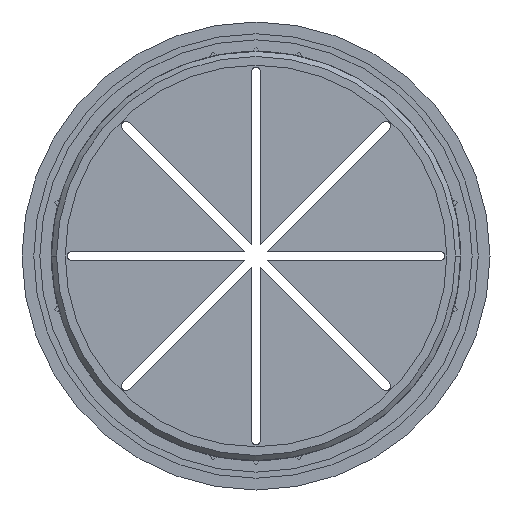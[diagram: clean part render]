
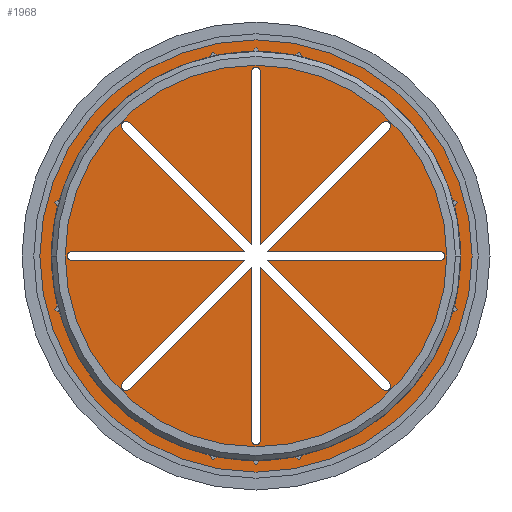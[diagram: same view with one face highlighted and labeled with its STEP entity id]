
A CAD part, front view. The second image highlights one B-rep face of the part: STEP entity #1968.
In plain terms, the highlighted planar face has unit normal (0, -1, 0) as drawn and (0, 1, 0) by its records, which use the part's own axes.
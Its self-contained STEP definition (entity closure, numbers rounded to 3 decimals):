
#1471=DIRECTION('',(1.,0.,0.));
#1472=VECTOR('',#1471,33.827);
#1473=CARTESIAN_POINT('',(2.173,3.5,0.9));
#1474=LINE('',#1473,#1472);
#1475=DIRECTION('',(-1.,0.,0.));
#1476=VECTOR('',#1475,33.827);
#1477=CARTESIAN_POINT('',(36.,3.5,-0.9));
#1478=LINE('',#1477,#1476);
#1479=DIRECTION('',(0.707,0.,-0.707));
#1480=VECTOR('',#1479,33.827);
#1481=CARTESIAN_POINT('',(2.173,3.5,-0.9));
#1482=LINE('',#1481,#1480);
#1483=DIRECTION('',(-0.707,0.,0.707));
#1484=VECTOR('',#1483,33.827);
#1485=CARTESIAN_POINT('',(24.819,3.5,-26.092));
#1486=LINE('',#1485,#1484);
#1487=DIRECTION('',(0.,0.,-1.));
#1488=VECTOR('',#1487,33.827);
#1489=CARTESIAN_POINT('',(0.9,3.5,-2.173));
#1490=LINE('',#1489,#1488);
#1491=DIRECTION('',(0.,0.,1.));
#1492=VECTOR('',#1491,33.827);
#1493=CARTESIAN_POINT('',(-0.9,3.5,-36.));
#1494=LINE('',#1493,#1492);
#1495=DIRECTION('',(-0.707,0.,-0.707));
#1496=VECTOR('',#1495,33.827);
#1497=CARTESIAN_POINT('',(-0.9,3.5,-2.173));
#1498=LINE('',#1497,#1496);
#1499=DIRECTION('',(0.707,0.,0.707));
#1500=VECTOR('',#1499,33.827);
#1501=CARTESIAN_POINT('',(-26.092,3.5,-24.819));
#1502=LINE('',#1501,#1500);
#1503=DIRECTION('',(-1.,0.,0.));
#1504=VECTOR('',#1503,33.827);
#1505=CARTESIAN_POINT('',(-2.173,3.5,-0.9));
#1506=LINE('',#1505,#1504);
#1507=DIRECTION('',(1.,0.,0.));
#1508=VECTOR('',#1507,33.827);
#1509=CARTESIAN_POINT('',(-36.,3.5,0.9));
#1510=LINE('',#1509,#1508);
#1511=DIRECTION('',(-0.707,0.,0.707));
#1512=VECTOR('',#1511,33.827);
#1513=CARTESIAN_POINT('',(-2.173,3.5,0.9));
#1514=LINE('',#1513,#1512);
#1515=DIRECTION('',(0.707,0.,-0.707));
#1516=VECTOR('',#1515,33.827);
#1517=CARTESIAN_POINT('',(-24.819,3.5,26.092));
#1518=LINE('',#1517,#1516);
#1519=DIRECTION('',(0.,0.,1.));
#1520=VECTOR('',#1519,33.827);
#1521=CARTESIAN_POINT('',(-0.9,3.5,2.173));
#1522=LINE('',#1521,#1520);
#1523=DIRECTION('',(0.,0.,-1.));
#1524=VECTOR('',#1523,33.827);
#1525=CARTESIAN_POINT('',(0.9,3.5,36.));
#1526=LINE('',#1525,#1524);
#1527=DIRECTION('',(0.707,0.,0.707));
#1528=VECTOR('',#1527,33.827);
#1529=CARTESIAN_POINT('',(0.9,3.5,2.173));
#1530=LINE('',#1529,#1528);
#1531=DIRECTION('',(-0.707,0.,-0.707));
#1532=VECTOR('',#1531,33.827);
#1533=CARTESIAN_POINT('',(26.092,3.5,24.819));
#1534=LINE('',#1533,#1532);
#1535=CARTESIAN_POINT('',(0.,3.5,0.));
#1536=DIRECTION('',(0.,1.,0.));
#1537=DIRECTION('',(-1.,0.,0.));
#1538=AXIS2_PLACEMENT_3D('',#1535,#1536,#1537);
#1540=CARTESIAN_POINT('',(0.,3.5,0.));
#1541=DIRECTION('',(0.,1.,0.));
#1542=DIRECTION('',(1.,0.,0.));
#1543=AXIS2_PLACEMENT_3D('',#1540,#1541,#1542);
#1558=CARTESIAN_POINT('',(36.,3.5,0.));
#1559=DIRECTION('',(0.,-1.,0.));
#1560=DIRECTION('',(0.,0.,-1.));
#1561=AXIS2_PLACEMENT_3D('',#1558,#1559,#1560);
#1654=CARTESIAN_POINT('',(25.456,3.5,-25.456));
#1655=DIRECTION('',(0.,-1.,0.));
#1656=DIRECTION('',(-0.707,0.,-0.707));
#1657=AXIS2_PLACEMENT_3D('',#1654,#1655,#1656);
#1671=CARTESIAN_POINT('',(0.,3.5,-36.));
#1672=DIRECTION('',(0.,-1.,0.));
#1673=DIRECTION('',(-1.,0.,0.));
#1674=AXIS2_PLACEMENT_3D('',#1671,#1672,#1673);
#1698=CARTESIAN_POINT('',(-25.456,3.5,-25.456));
#1699=DIRECTION('',(0.,-1.,0.));
#1700=DIRECTION('',(-0.707,0.,0.707));
#1701=AXIS2_PLACEMENT_3D('',#1698,#1699,#1700);
#1715=CARTESIAN_POINT('',(-36.,3.5,0.));
#1716=DIRECTION('',(0.,-1.,0.));
#1717=DIRECTION('',(0.,0.,1.));
#1718=AXIS2_PLACEMENT_3D('',#1715,#1716,#1717);
#1742=CARTESIAN_POINT('',(-25.456,3.5,25.456));
#1743=DIRECTION('',(0.,-1.,0.));
#1744=DIRECTION('',(0.707,0.,0.707));
#1745=AXIS2_PLACEMENT_3D('',#1742,#1743,#1744);
#1759=CARTESIAN_POINT('',(0.,3.5,36.));
#1760=DIRECTION('',(0.,-1.,0.));
#1761=DIRECTION('',(1.,0.,0.));
#1762=AXIS2_PLACEMENT_3D('',#1759,#1760,#1761);
#1781=CARTESIAN_POINT('',(25.456,3.5,25.456));
#1782=DIRECTION('',(0.,-1.,0.));
#1783=DIRECTION('',(0.707,0.,-0.707));
#1784=AXIS2_PLACEMENT_3D('',#1781,#1782,#1783);
#1804=CARTESIAN_POINT('',(-0.9,3.5,-2.173));
#1806=VERTEX_POINT('',#1804);
#1808=CARTESIAN_POINT('',(-2.173,3.5,-0.9));
#1810=VERTEX_POINT('',#1808);
#1812=CARTESIAN_POINT('',(-2.173,3.5,0.9));
#1814=VERTEX_POINT('',#1812);
#1816=CARTESIAN_POINT('',(-0.9,3.5,2.173));
#1818=VERTEX_POINT('',#1816);
#1820=CARTESIAN_POINT('',(0.9,3.5,2.173));
#1822=VERTEX_POINT('',#1820);
#1824=CARTESIAN_POINT('',(2.173,3.5,0.9));
#1826=VERTEX_POINT('',#1824);
#1828=CARTESIAN_POINT('',(2.173,3.5,-0.9));
#1830=VERTEX_POINT('',#1828);
#1832=CARTESIAN_POINT('',(0.9,3.5,-2.173));
#1834=VERTEX_POINT('',#1832);
#1836=CARTESIAN_POINT('',(26.092,3.5,-24.819));
#1838=VERTEX_POINT('',#1836);
#1840=CARTESIAN_POINT('',(24.819,3.5,-26.092));
#1842=VERTEX_POINT('',#1840);
#1844=CARTESIAN_POINT('',(36.,3.5,0.9));
#1846=VERTEX_POINT('',#1844);
#1848=CARTESIAN_POINT('',(36.,3.5,-0.9));
#1850=VERTEX_POINT('',#1848);
#1851=CARTESIAN_POINT('',(-0.9,3.5,-36.));
#1853=VERTEX_POINT('',#1851);
#1855=CARTESIAN_POINT('',(0.9,3.5,-36.));
#1857=VERTEX_POINT('',#1855);
#1860=CARTESIAN_POINT('',(-24.819,3.5,-26.092));
#1862=VERTEX_POINT('',#1860);
#1864=CARTESIAN_POINT('',(-26.092,3.5,-24.819));
#1866=VERTEX_POINT('',#1864);
#1867=CARTESIAN_POINT('',(-36.,3.5,0.9));
#1869=VERTEX_POINT('',#1867);
#1871=CARTESIAN_POINT('',(-36.,3.5,-0.9));
#1873=VERTEX_POINT('',#1871);
#1876=CARTESIAN_POINT('',(-26.092,3.5,24.819));
#1878=VERTEX_POINT('',#1876);
#1880=CARTESIAN_POINT('',(-24.819,3.5,26.092));
#1882=VERTEX_POINT('',#1880);
#1883=CARTESIAN_POINT('',(0.9,3.5,36.));
#1885=VERTEX_POINT('',#1883);
#1887=CARTESIAN_POINT('',(-0.9,3.5,36.));
#1889=VERTEX_POINT('',#1887);
#1891=CARTESIAN_POINT('',(26.092,3.5,24.819));
#1893=VERTEX_POINT('',#1891);
#1895=CARTESIAN_POINT('',(24.819,3.5,26.092));
#1897=VERTEX_POINT('',#1895);
#1899=CARTESIAN_POINT('',(-42.25,3.5,0.));
#1900=CARTESIAN_POINT('',(42.25,3.5,0.));
#1901=VERTEX_POINT('',#1899);
#1902=VERTEX_POINT('',#1900);
#1907=CARTESIAN_POINT('',(0.,3.5,0.));
#1908=DIRECTION('',(0.,1.,0.));
#1909=DIRECTION('',(1.,0.,0.));
#1910=AXIS2_PLACEMENT_3D('',#1907,#1908,#1909);
#1911=PLANE('',#1910);
#1913=ORIENTED_EDGE('',*,*,#1912,.F.);
#1915=ORIENTED_EDGE('',*,*,#1914,.F.);
#1916=EDGE_LOOP('',(#1913,#1915));
#1917=FACE_OUTER_BOUND('',#1916,.F.);
#1919=ORIENTED_EDGE('',*,*,#1918,.T.);
#1921=ORIENTED_EDGE('',*,*,#1920,.F.);
#1923=ORIENTED_EDGE('',*,*,#1922,.T.);
#1925=ORIENTED_EDGE('',*,*,#1924,.T.);
#1927=ORIENTED_EDGE('',*,*,#1926,.F.);
#1929=ORIENTED_EDGE('',*,*,#1928,.T.);
#1931=ORIENTED_EDGE('',*,*,#1930,.T.);
#1933=ORIENTED_EDGE('',*,*,#1932,.F.);
#1935=ORIENTED_EDGE('',*,*,#1934,.T.);
#1937=ORIENTED_EDGE('',*,*,#1936,.T.);
#1939=ORIENTED_EDGE('',*,*,#1938,.F.);
#1941=ORIENTED_EDGE('',*,*,#1940,.T.);
#1943=ORIENTED_EDGE('',*,*,#1942,.T.);
#1945=ORIENTED_EDGE('',*,*,#1944,.F.);
#1947=ORIENTED_EDGE('',*,*,#1946,.T.);
#1949=ORIENTED_EDGE('',*,*,#1948,.T.);
#1951=ORIENTED_EDGE('',*,*,#1950,.F.);
#1953=ORIENTED_EDGE('',*,*,#1952,.T.);
#1955=ORIENTED_EDGE('',*,*,#1954,.T.);
#1957=ORIENTED_EDGE('',*,*,#1956,.F.);
#1959=ORIENTED_EDGE('',*,*,#1958,.T.);
#1961=ORIENTED_EDGE('',*,*,#1960,.T.);
#1963=ORIENTED_EDGE('',*,*,#1962,.F.);
#1965=ORIENTED_EDGE('',*,*,#1964,.T.);
#1966=EDGE_LOOP('',(#1919,#1921,#1923,#1925,#1927,#1929,#1931,#1933,#1935,#1937,
#1939,#1941,#1943,#1945,#1947,#1949,#1951,#1953,#1955,#1957,#1959,#1961,#1963,
#1965));
#1967=FACE_BOUND('',#1966,.F.);
#1968=ADVANCED_FACE('',(#1917,#1967),#1911,.T.);
#1539=CIRCLE('',#1538,42.25);
#1544=CIRCLE('',#1543,42.25);
#1562=CIRCLE('',#1561,0.9);
#1658=CIRCLE('',#1657,0.9);
#1675=CIRCLE('',#1674,0.9);
#1702=CIRCLE('',#1701,0.9);
#1719=CIRCLE('',#1718,0.9);
#1746=CIRCLE('',#1745,0.9);
#1763=CIRCLE('',#1762,0.9);
#1785=CIRCLE('',#1784,0.9);
#1912=EDGE_CURVE('',#1901,#1902,#1539,.T.);
#1914=EDGE_CURVE('',#1902,#1901,#1544,.T.);
#1918=EDGE_CURVE('',#1826,#1846,#1474,.T.);
#1920=EDGE_CURVE('',#1850,#1846,#1562,.T.);
#1922=EDGE_CURVE('',#1850,#1830,#1478,.T.);
#1924=EDGE_CURVE('',#1830,#1838,#1482,.T.);
#1926=EDGE_CURVE('',#1842,#1838,#1658,.T.);
#1928=EDGE_CURVE('',#1842,#1834,#1486,.T.);
#1930=EDGE_CURVE('',#1834,#1857,#1490,.T.);
#1932=EDGE_CURVE('',#1853,#1857,#1675,.T.);
#1934=EDGE_CURVE('',#1853,#1806,#1494,.T.);
#1936=EDGE_CURVE('',#1806,#1862,#1498,.T.);
#1938=EDGE_CURVE('',#1866,#1862,#1702,.T.);
#1940=EDGE_CURVE('',#1866,#1810,#1502,.T.);
#1942=EDGE_CURVE('',#1810,#1873,#1506,.T.);
#1944=EDGE_CURVE('',#1869,#1873,#1719,.T.);
#1946=EDGE_CURVE('',#1869,#1814,#1510,.T.);
#1948=EDGE_CURVE('',#1814,#1878,#1514,.T.);
#1950=EDGE_CURVE('',#1882,#1878,#1746,.T.);
#1952=EDGE_CURVE('',#1882,#1818,#1518,.T.);
#1954=EDGE_CURVE('',#1818,#1889,#1522,.T.);
#1956=EDGE_CURVE('',#1885,#1889,#1763,.T.);
#1958=EDGE_CURVE('',#1885,#1822,#1526,.T.);
#1960=EDGE_CURVE('',#1822,#1897,#1530,.T.);
#1962=EDGE_CURVE('',#1893,#1897,#1785,.T.);
#1964=EDGE_CURVE('',#1893,#1826,#1534,.T.);
